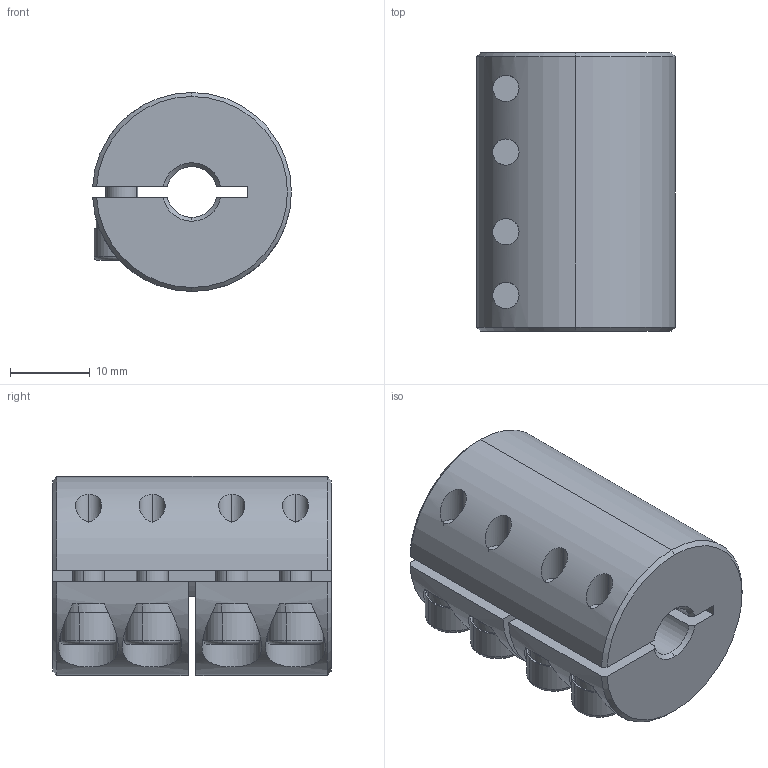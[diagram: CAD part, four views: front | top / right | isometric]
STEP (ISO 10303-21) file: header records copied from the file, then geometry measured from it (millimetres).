
FILE_DESCRIPTION (( 'STEP AP203' ), '1' );
FILE_NAME ('LL-B-D25L35-6.35-6.35.STEP', '2021-11-05T06:55:27', ( '' ), ( '' ), 'SwSTEP 2.0', 'SolidWorks 2018', '' );
FILE_SCHEMA (( 'CONFIG_CONTROL_DESIGN' ));
Length unit declared in the file: millimetre
Products named in the file (1): LL-B-D25L35-6.35-6.35
Bounding box: 24.98 x 35 x 25 mm (x, y, z)
Volume: 14913.7 mm3; surface area: 6871.9 mm2
Topology: 1 solids, 1 shells, 187 faces, 478 edges, 297 vertices
Faces by surface type: plane 90, cylinder 69, cone 20, torus 8
Entity records: 6142 total; most frequent: CARTESIAN_POINT 1467, DIRECTION 1011, ORIENTED_EDGE 940, EDGE_CURVE 470, AXIS2_PLACEMENT_3D 393, VERTEX_POINT 297, LINE 225, VECTOR 225
